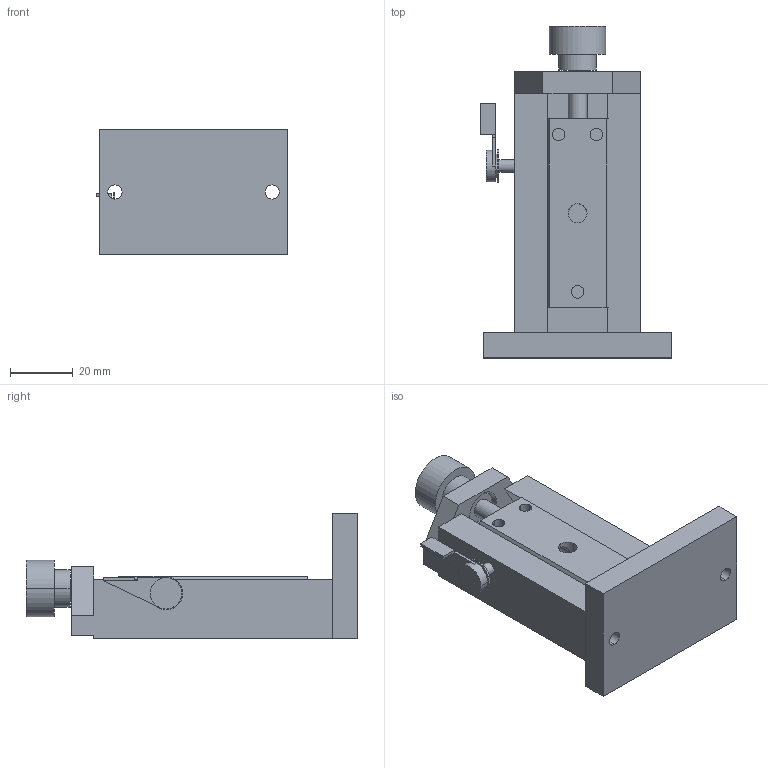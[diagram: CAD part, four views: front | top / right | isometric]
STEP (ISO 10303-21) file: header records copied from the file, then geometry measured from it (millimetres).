
FILE_DESCRIPTION (( 'STEP AP203' ), '1' );
FILE_NAME ('RX000ZA011.STEP', '2009-04-08T01:30:58', ( '' ), ( '' ), 'SwSTEP 2.0', 'SolidWorks 2007', '' );
FILE_SCHEMA (( 'CONFIG_CONTROL_DESIGN' ));
Length unit declared in the file: millimetre
Products named in the file (3): RX-Z-1_蹬怮椔; RX000ZA011; RX-Z-2_蹬怮椔
Assembly tree (2 placements, depth 2):
  RX000ZA011
    RX-Z-1_蹬怮椔
    RX-Z-2_蹬怮椔
Bounding box: 61 x 105.5 x 40 mm (x, y, z)
Volume: 81656.3 mm3; surface area: 27473.3 mm2
Topology: 2 solids, 6 shells, 123 faces, 289 edges, 187 vertices
Faces by surface type: plane 67, cylinder 52, cone 4
Entity records: 3901 total; most frequent: CARTESIAN_POINT 666, DIRECTION 644, ORIENTED_EDGE 570, EDGE_CURVE 285, AXIS2_PLACEMENT_3D 235, VERTEX_POINT 187, LINE 174, VECTOR 174
